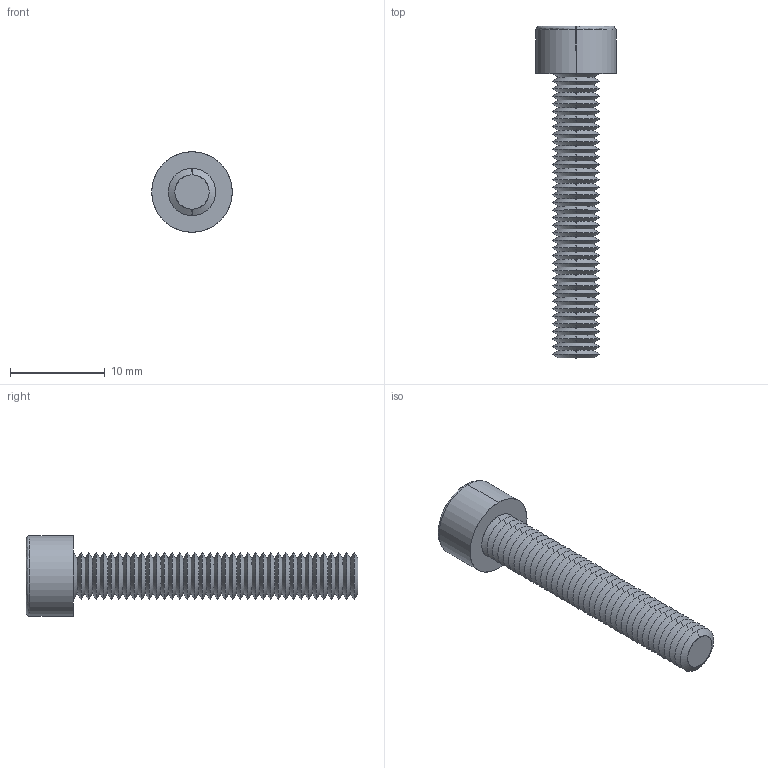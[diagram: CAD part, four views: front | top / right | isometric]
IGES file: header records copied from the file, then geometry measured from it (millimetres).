
Start section: SolidWorks IGES file using analytic representation for surfaces
Global section: file name: C:\Users\ianosborn\Desktop\N0007.91N_v2\N0007.91N_v2_20250519_IGES\91N.050.0300.igs; native system: SolidWorks 2019; preprocessor: SolidWorks 2019; author: IanOsborn; date: 250520.095211; units: millimetre
Bounding box: 8.5 x 35 x 8.5 mm (x, y, z)
Surface area: 1101.6 mm2 (no closed solid volume)
Topology: 0 solids, 0 shells, 178 faces, 909 edges, 907 vertices
Faces by surface type: revolution 161, bspline 17
